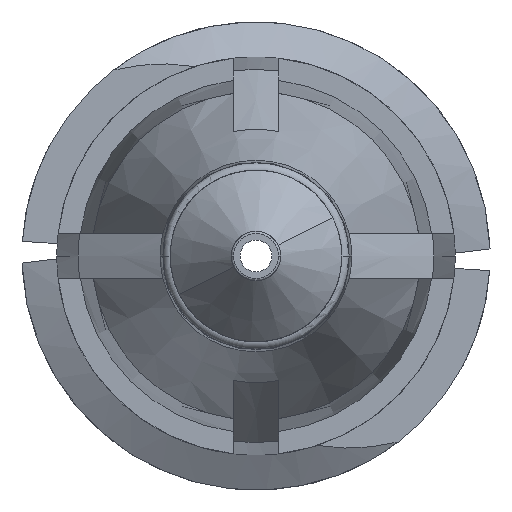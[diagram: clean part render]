
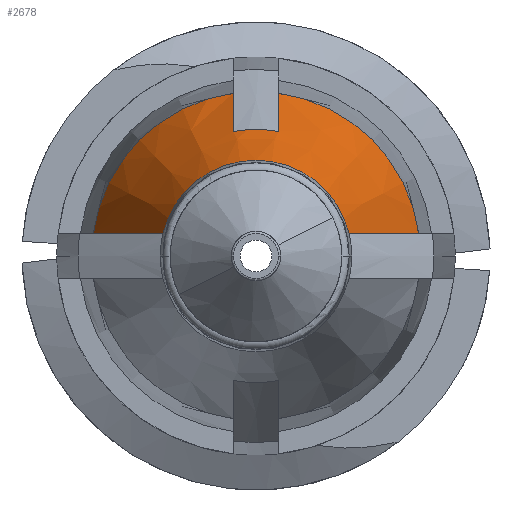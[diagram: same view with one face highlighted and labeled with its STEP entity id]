
A CAD part, front view. The second image highlights one B-rep face of the part: STEP entity #2678.
In plain terms, the highlighted conical face has half-angle 20 degrees and reference radius 2.745 mm.
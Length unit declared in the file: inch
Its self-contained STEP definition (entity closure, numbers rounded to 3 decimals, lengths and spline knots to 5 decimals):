
#17 = CARTESIAN_POINT ( 'NONE',  ( 0.015, -0.47395, 0.08198 ) ) ;
#35 = CARTESIAN_POINT ( 'NONE',  ( -0.09185, -0.44732, 0.015 ) ) ;
#66 = FACE_OUTER_BOUND ( 'NONE', #664, .T. ) ;
#176 = CARTESIAN_POINT ( 'NONE',  ( -0.015, -0.406, 0.10703 ) ) ;
#235 = EDGE_CURVE ( 'NONE', #2879, #3386, #2960, .T. ) ;
#246 = DIRECTION ( 'NONE',  ( 0., 1., 0. ) ) ;
#343 = DIRECTION ( 'NONE',  ( -1., 0., 0. ) ) ;
#369 = CARTESIAN_POINT ( 'NONE',  ( -0.015, -0.42866, 0.0987 ) ) ;
#387 = EDGE_CURVE ( 'NONE', #2879, #1570, #1662, .T. ) ;
#436 = CARTESIAN_POINT ( 'NONE',  ( -0.015, -0.47395, 0.08198 ) ) ;
#445 = AXIS2_PLACEMENT_3D ( 'NONE', #1409, #3240, #343 ) ;
#467 = CARTESIAN_POINT ( 'NONE',  ( 0.09185, -0.44732, 0.015 ) ) ;
#491 = ORIENTED_EDGE ( 'NONE', *, *, #2596, .F. ) ;
#528 = ORIENTED_EDGE ( 'NONE', *, *, #1332, .F. ) ;
#559 = EDGE_CURVE ( 'NONE', #3386, #3297, #2236, .T. ) ;
#629 = AXIS2_PLACEMENT_3D ( 'NONE', #3144, #246, #3430 ) ;
#632 = DIRECTION ( 'NONE',  ( -1., 0., 0. ) ) ;
#664 = EDGE_LOOP ( 'NONE', ( #3023, #2263, #1809, #528, #491, #707, #1804, #2688 ) ) ;
#667 = EDGE_CURVE ( 'NONE', #2775, #3231, #2958, .T. ) ;
#707 = ORIENTED_EDGE ( 'NONE', *, *, #667, .F. ) ;
#722 = B_SPLINE_CURVE_WITH_KNOTS ( 'NONE', 3,
 ( #1928, #369, #3287, #1940 ),
 .UNSPECIFIED., .F., .F.,
 ( 4, 4 ),
 ( 0.00343, 0.00527 ),
 .UNSPECIFIED. ) ;
#761 = CARTESIAN_POINT ( 'NONE',  ( 0.06119, -0.52985, 0.015 ) ) ;
#895 = CONICAL_SURFACE ( 'NONE', #1018, 0.10808, 0.349 ) ;
#945 = DIRECTION ( 'NONE',  ( -1., 0., 0. ) ) ;
#984 = CARTESIAN_POINT ( 'NONE',  ( 0.015, -0.47395, 0.08198 ) ) ;
#1003 = DIRECTION ( 'NONE',  ( -1., 0., 0. ) ) ;
#1005 = CARTESIAN_POINT ( 'NONE',  ( -0.06119, -0.52985, 0.015 ) ) ;
#1018 = AXIS2_PLACEMENT_3D ( 'NONE', #2202, #2479, #632 ) ;
#1080 = CARTESIAN_POINT ( 'NONE',  ( 0.015, -0.42866, 0.0987 ) ) ;
#1105 = EDGE_CURVE ( 'NONE', #1570, #3305, #1913, .T. ) ;
#1117 = CARTESIAN_POINT ( 'NONE',  ( -0.10703, -0.406, 0.015 ) ) ;
#1318 = CARTESIAN_POINT ( 'NONE',  ( 0.015, -0.406, 0.10703 ) ) ;
#1332 = EDGE_CURVE ( 'NONE', #1521, #3297, #2995, .T. ) ;
#1409 = CARTESIAN_POINT ( 'NONE',  ( 0., -0.406, 0. ) ) ;
#1521 = VERTEX_POINT ( 'NONE', #1318 ) ;
#1570 = VERTEX_POINT ( 'NONE', #2616 ) ;
#1611 = CARTESIAN_POINT ( 'NONE',  ( 0.015, -0.406, 0.10703 ) ) ;
#1648 = CARTESIAN_POINT ( 'NONE',  ( -0.06119, -0.52985, 0.015 ) ) ;
#1662 = B_SPLINE_CURVE_WITH_KNOTS ( 'NONE', 3,
 ( #1648, #2190, #35, #1117 ),
 .UNSPECIFIED., .F., .F.,
 ( 4, 4 ),
 ( 0.00282, 0.00617 ),
 .UNSPECIFIED. ) ;
#1777 = AXIS2_PLACEMENT_3D ( 'NONE', #2827, #2065, #945 ) ;
#1804 = ORIENTED_EDGE ( 'NONE', *, *, #2636, .F. ) ;
#1809 = ORIENTED_EDGE ( 'NONE', *, *, #559, .T. ) ;
#1913 = CIRCLE ( 'NONE', #445, 0.10808 ) ;
#1928 = CARTESIAN_POINT ( 'NONE',  ( -0.015, -0.406, 0.10703 ) ) ;
#1940 = CARTESIAN_POINT ( 'NONE',  ( -0.015, -0.47395, 0.08198 ) ) ;
#2030 = CARTESIAN_POINT ( 'NONE',  ( 0.10703, -0.406, 0.015 ) ) ;
#2065 = DIRECTION ( 'NONE',  ( 0., 1., 0. ) ) ;
#2190 = CARTESIAN_POINT ( 'NONE',  ( -0.07664, -0.48863, 0.015 ) ) ;
#2202 = CARTESIAN_POINT ( 'NONE',  ( 0., -0.406, 0. ) ) ;
#2236 = B_SPLINE_CURVE_WITH_KNOTS ( 'NONE', 3,
 ( #2590, #2279, #467, #2030 ),
 .UNSPECIFIED., .F., .F.,
 ( 4, 4 ),
 ( 0.00282, 0.00617 ),
 .UNSPECIFIED. ) ;
#2263 = ORIENTED_EDGE ( 'NONE', *, *, #235, .T. ) ;
#2279 = CARTESIAN_POINT ( 'NONE',  ( 0.07664, -0.48863, 0.015 ) ) ;
#2345 = DIRECTION ( 'NONE',  ( 0., 1., 0. ) ) ;
#2386 = B_SPLINE_CURVE_WITH_KNOTS ( 'NONE', 3,
 ( #17, #2400, #1080, #1611 ),
 .UNSPECIFIED., .F., .F.,
 ( 4, 4 ),
 ( 0.00247, 0.00431 ),
 .UNSPECIFIED. ) ;
#2400 = CARTESIAN_POINT ( 'NONE',  ( 0.015, -0.45131, 0.09036 ) ) ;
#2479 = DIRECTION ( 'NONE',  ( 0., 1., 0. ) ) ;
#2590 = CARTESIAN_POINT ( 'NONE',  ( 0.06119, -0.52985, 0.015 ) ) ;
#2594 = CARTESIAN_POINT ( 'NONE',  ( 0., -0.52985, 0. ) ) ;
#2596 = EDGE_CURVE ( 'NONE', #3231, #1521, #2386, .T. ) ;
#2601 = AXIS2_PLACEMENT_3D ( 'NONE', #2594, #2345, #1003 ) ;
#2616 = CARTESIAN_POINT ( 'NONE',  ( -0.10703, -0.406, 0.015 ) ) ;
#2636 = EDGE_CURVE ( 'NONE', #3305, #2775, #722, .T. ) ;
#2678 = ADVANCED_FACE ( 'NONE', ( #66 ), #895, .T. ) ;
#2688 = ORIENTED_EDGE ( 'NONE', *, *, #1105, .F. ) ;
#2775 = VERTEX_POINT ( 'NONE', #436 ) ;
#2827 = CARTESIAN_POINT ( 'NONE',  ( 0., -0.406, 0. ) ) ;
#2879 = VERTEX_POINT ( 'NONE', #1005 ) ;
#2958 = CIRCLE ( 'NONE', #629, 0.08335 ) ;
#2960 = CIRCLE ( 'NONE', #2601, 0.063 ) ;
#2995 = CIRCLE ( 'NONE', #1777, 0.10808 ) ;
#3023 = ORIENTED_EDGE ( 'NONE', *, *, #387, .F. ) ;
#3144 = CARTESIAN_POINT ( 'NONE',  ( 0., -0.47395, 0. ) ) ;
#3231 = VERTEX_POINT ( 'NONE', #984 ) ;
#3240 = DIRECTION ( 'NONE',  ( 0., 1., 0. ) ) ;
#3287 = CARTESIAN_POINT ( 'NONE',  ( -0.015, -0.45131, 0.09036 ) ) ;
#3297 = VERTEX_POINT ( 'NONE', #3357 ) ;
#3305 = VERTEX_POINT ( 'NONE', #176 ) ;
#3357 = CARTESIAN_POINT ( 'NONE',  ( 0.10703, -0.406, 0.015 ) ) ;
#3386 = VERTEX_POINT ( 'NONE', #761 ) ;
#3430 = DIRECTION ( 'NONE',  ( 1., 0., 0. ) ) ;
